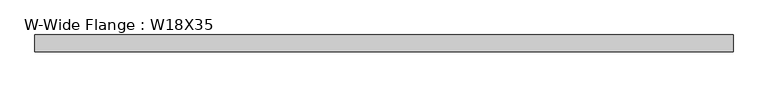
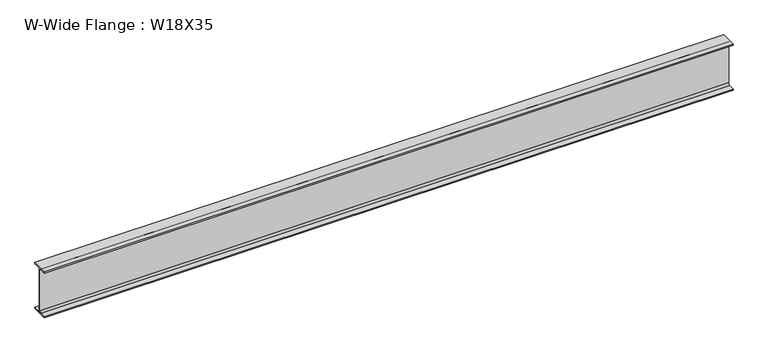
"""IFC4 building model written with IfcOpenShell, lengths in millimetres: beam geometry, W-Wide Flange : W18X35."""

from ifc_helpers import new_model, si_unit, point, frame, frame_2d, origin, place, context, project, spatial, polyline, circle_curve, trimmed, segment, composite_curve, outline, extrude, source, transform, mapped, element, save


def w_wide_flange_w18x35_9e390736(model_context):
    return source(origin(), model_context, "Body", "SweptSolid", [
        extrude(outline(composite_curve([segment(polyline([(-76.2, -213.995), (-21.59, -213.995)]), True, "CONTINUOUS"), segment(trimmed(circle_curve(frame_2d((-21.59, -196.215)), 17.78), [point((-21.59, -213.995))], [point((-3.81, -196.215))], True, "CARTESIAN"), True, "CONTINUOUS"), segment(polyline([(-3.81, -196.215), (-3.81, 196.215)]), True, "CONTINUOUS"), segment(trimmed(circle_curve(frame_2d((-21.59, 196.215)), 17.78), [point((-3.81, 196.215))], [point((-21.59, 213.995))], True, "CARTESIAN"), True, "CONTINUOUS"), segment(polyline([(-21.59, 213.995), (-76.2, 213.995), (-76.2, 224.79), (76.2, 224.79), (76.2, 213.995), (21.59, 213.995)]), True, "CONTINUOUS"), segment(trimmed(circle_curve(frame_2d((21.59, 196.215)), 17.78), [point((21.59, 213.995))], [point((3.81, 196.215))], True, "CARTESIAN"), True, "CONTINUOUS"), segment(polyline([(3.81, 196.215), (3.81, -196.215)]), True, "CONTINUOUS"), segment(trimmed(circle_curve(frame_2d((21.59, -196.215)), 17.78), [point((3.81, -196.215))], [point((21.59, -213.995))], True, "CARTESIAN"), True, "CONTINUOUS"), segment(polyline([(21.59, -213.995), (76.2, -213.995), (76.2, -224.79), (-76.2, -224.79), (-76.2, -213.995)]), True, "CONTINUOUS")], self_intersect=False)), frame((-3162.8437614, 0.0, 0.0), z_axis=(1.0, 0.0, 0.0), x_axis=(0.0, 1.0, 0.0)), (0.0, 0.0, 1.0), 6366.51),
    ])


if __name__ == "__main__":
    model = new_model("IFC4")
    model_context = context("Model", 3, world=origin())
    ifc_project = project(units=[si_unit("LENGTHUNIT", "METRE", prefix="MILLI")], contexts=[model_context])
    site = spatial("IfcSite", under=ifc_project)
    building = spatial("IfcBuilding", under=site)
    placement = place(None, origin())
    w_wide_flange_w18x35_shape = w_wide_flange_w18x35_9e390736(model_context)
    element("IfcBeam", 1, ObjectType="W-Wide Flange : W18X35", at=placement, inside=building, context=model_context, shape_type="MappedRepresentation", body=[
        mapped(w_wide_flange_w18x35_shape, transform((0.0, 0.0, 0.0), x_axis=(1.0, 0.0, 0.0), y_axis=(0.0, 1.0, 0.0), z_axis=(0.0, 0.0, 1.0))),
    ])
    save(model, "model.ifc")
